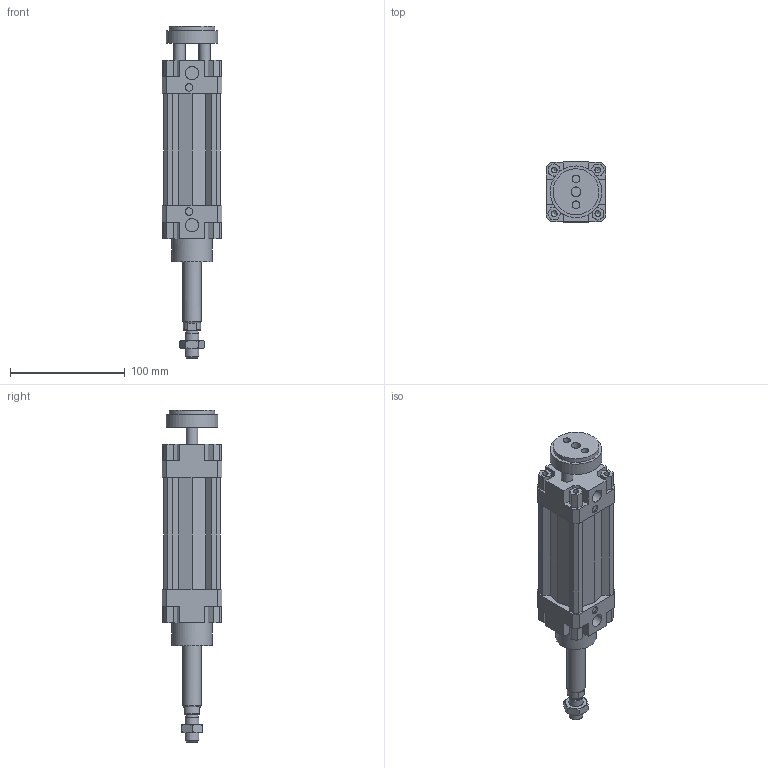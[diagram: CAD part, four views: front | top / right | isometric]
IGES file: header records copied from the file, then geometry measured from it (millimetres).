
Global section: file name: 132#_040_0050_02; native system: Autodesk Inventor 2014; preprocessor: unknown; author: A. Manieri; date: 20161006.154750; units: millimetre
Bounding box: 52 x 52 x 289 mm (x, y, z)
Volume: 330115.4 mm3; surface area: 93319.2 mm2
Topology: 3 solids, 3 shells, 220 faces, 590 edges, 398 vertices
Faces by surface type: bspline 220
